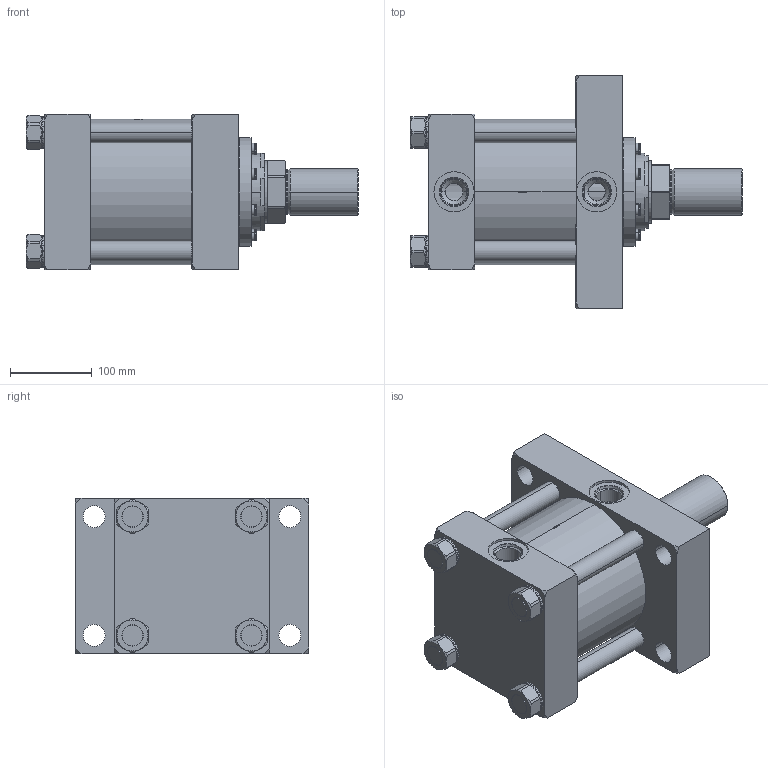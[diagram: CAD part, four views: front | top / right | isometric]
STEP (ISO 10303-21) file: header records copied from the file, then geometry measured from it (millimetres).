
FILE_DESCRIPTION (( 'STEP AP214' ), '1' );
FILE_NAME ('6.00JJ2HHNAT134A2.000.step', '2026-03-26T21:18:40', ( '' ), ( '' ), 'SwSTEP 2.0', 'SolidWorks 2023', '' );
FILE_SCHEMA (( 'AUTOMOTIVE_DESIGN' ));
Length unit declared in the file: inch
Products named in the file (1): 6.00JJ2HHNAT134A2.000
Bounding box: 406.4 x 285.75 x 190.5 mm (x, y, z)
Volume: 8126503.8 mm3; surface area: 837594.7 mm2
Topology: 40 solids, 40 shells, 1836 faces, 4863 edges, 3118 vertices
Faces by surface type: plane 812, cylinder 753, cone 229, bspline 34, torus 8
Entity records: 84601 total; most frequent: CARTESIAN_POINT 15742, ORIENTED_EDGE 9646, DIRECTION 9073, EDGE_CURVE 4823, AXIS2_PLACEMENT_3D 3513, VERTEX_POINT 3118, VECTOR 2047, LINE 2047
